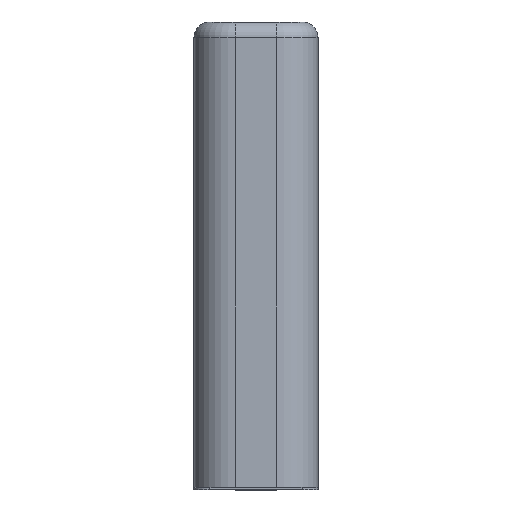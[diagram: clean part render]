
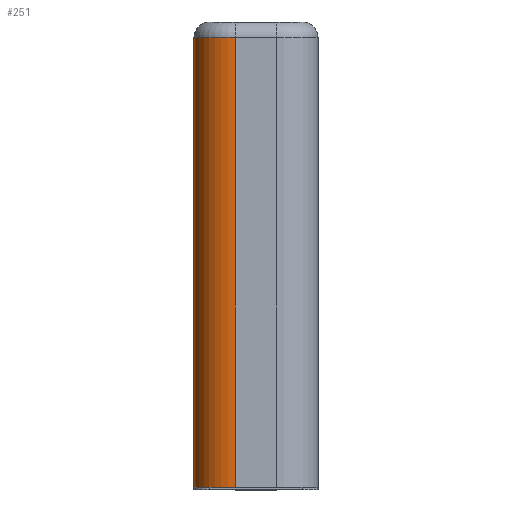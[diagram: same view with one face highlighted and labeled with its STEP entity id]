
A CAD part, top view. The second image highlights one B-rep face of the part: STEP entity #251.
In plain terms, the highlighted cylindrical face has radius 2.667 mm (diameter 5.333 mm), a partial arc.
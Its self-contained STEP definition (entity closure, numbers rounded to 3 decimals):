
#54 = VERTEX_POINT ( 'NONE', #312 ) ;
#169 = EDGE_CURVE ( 'NONE', #54, #317, #325, .T. ) ;
#177 = ORIENTED_EDGE ( 'NONE', *, *, #1323, .T. ) ;
#197 = ORIENTED_EDGE ( 'NONE', *, *, #169, .T. ) ;
#226 = CARTESIAN_POINT ( 'NONE',  ( -2.333, 30., -1.333 ) ) ;
#251 = ADVANCED_FACE ( 'NONE', ( #1140 ), #521, .T. ) ;
#312 = CARTESIAN_POINT ( 'NONE',  ( -2.333, 0., -4. ) ) ;
#317 = VERTEX_POINT ( 'NONE', #416 ) ;
#325 = CIRCLE ( 'NONE', #1799, 2.667 ) ;
#358 = CARTESIAN_POINT ( 'NONE',  ( -5., 29., -1.333 ) ) ;
#416 = CARTESIAN_POINT ( 'NONE',  ( -5., 0., -1.333 ) ) ;
#498 = CARTESIAN_POINT ( 'NONE',  ( -2.333, 29., -4. ) ) ;
#506 = AXIS2_PLACEMENT_3D ( 'NONE', #950, #618, #805 ) ;
#521 = CYLINDRICAL_SURFACE ( 'NONE', #2051, 2.667 ) ;
#549 = DIRECTION ( 'NONE',  ( 0., -1., 0. ) ) ;
#561 = EDGE_LOOP ( 'NONE', ( #941, #177, #984, #197 ) ) ;
#583 = EDGE_CURVE ( 'NONE', #732, #317, #1467, .T. ) ;
#618 = DIRECTION ( 'NONE',  ( 0., -1., 0. ) ) ;
#732 = VERTEX_POINT ( 'NONE', #358 ) ;
#742 = DIRECTION ( 'NONE',  ( 0., 0., -1. ) ) ;
#805 = DIRECTION ( 'NONE',  ( 0., 0., 1. ) ) ;
#907 = DIRECTION ( 'NONE',  ( 0., 1., 0. ) ) ;
#941 = ORIENTED_EDGE ( 'NONE', *, *, #583, .F. ) ;
#945 = LINE ( 'NONE', #1684, #2033 ) ;
#950 = CARTESIAN_POINT ( 'NONE',  ( -2.333, 29., -1.333 ) ) ;
#984 = ORIENTED_EDGE ( 'NONE', *, *, #2113, .T. ) ;
#1007 = DIRECTION ( 'NONE',  ( 0., -1., 0. ) ) ;
#1140 = FACE_OUTER_BOUND ( 'NONE', #561, .T. ) ;
#1150 = CARTESIAN_POINT ( 'NONE',  ( -5., 30., -1.333 ) ) ;
#1202 = CIRCLE ( 'NONE', #506, 2.667 ) ;
#1323 = EDGE_CURVE ( 'NONE', #732, #2112, #1202, .T. ) ;
#1467 = LINE ( 'NONE', #1150, #2196 ) ;
#1646 = DIRECTION ( 'NONE',  ( 0., -1., 0. ) ) ;
#1684 = CARTESIAN_POINT ( 'NONE',  ( -2.333, 30., -4. ) ) ;
#1750 = CARTESIAN_POINT ( 'NONE',  ( -2.333, 0., -1.333 ) ) ;
#1799 = AXIS2_PLACEMENT_3D ( 'NONE', #1750, #907, #1908 ) ;
#1908 = DIRECTION ( 'NONE',  ( 0., 0., 1. ) ) ;
#2033 = VECTOR ( 'NONE', #1007, 1000. ) ;
#2051 = AXIS2_PLACEMENT_3D ( 'NONE', #226, #549, #742 ) ;
#2112 = VERTEX_POINT ( 'NONE', #498 ) ;
#2113 = EDGE_CURVE ( 'NONE', #2112, #54, #945, .T. ) ;
#2196 = VECTOR ( 'NONE', #1646, 1000. ) ;
